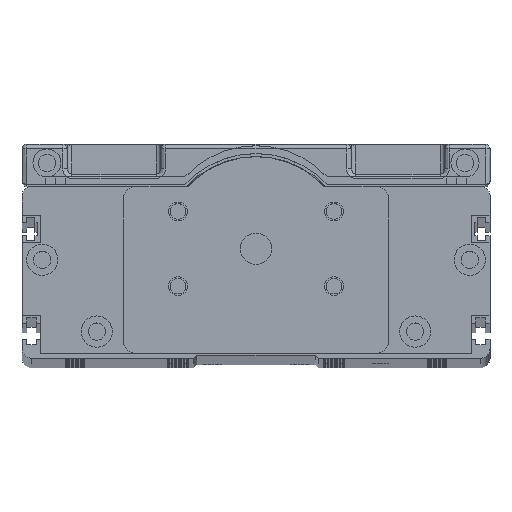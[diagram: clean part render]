
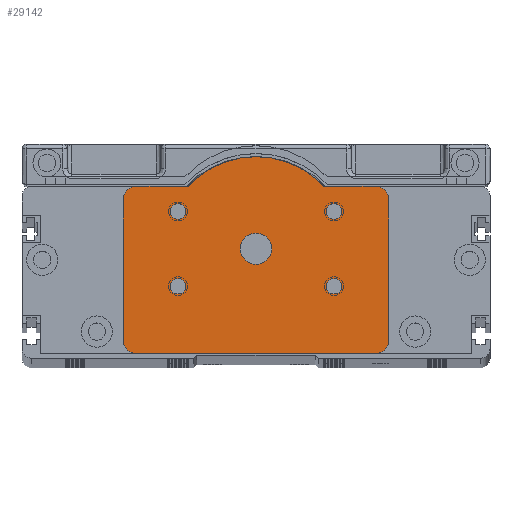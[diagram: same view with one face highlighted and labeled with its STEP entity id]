
A CAD part, top view. The second image highlights one B-rep face of the part: STEP entity #29142.
In plain terms, the highlighted planar face has unit normal (0, 0, 1).
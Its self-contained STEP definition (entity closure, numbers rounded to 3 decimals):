
#27784=CARTESIAN_POINT('',(38.5,49.5,29.));
#27785=DIRECTION('',(0.,0.,1.));
#27786=DIRECTION('',(1.,0.,0.));
#27787=AXIS2_PLACEMENT_3D('',#27784,#27785,#27786);
#27793=CARTESIAN_POINT('',(38.5,4.,29.));
#27794=DIRECTION('',(0.,0.,1.));
#27795=DIRECTION('',(0.,-1.,0.));
#27796=AXIS2_PLACEMENT_3D('',#27793,#27794,#27795);
#27945=CARTESIAN_POINT('',(-38.5,49.5,29.));
#27946=DIRECTION('',(0.,0.,1.));
#27947=DIRECTION('',(0.,1.,0.));
#27948=AXIS2_PLACEMENT_3D('',#27945,#27946,#27947);
#27959=DIRECTION('',(0.,1.,0.));
#27960=VECTOR('',#27959,45.5);
#27961=CARTESIAN_POINT('',(42.5,4.,29.));
#27962=LINE('',#27961,#27960);
#27963=DIRECTION('',(1.,0.,0.));
#27964=VECTOR('',#27963,77.);
#27965=CARTESIAN_POINT('',(-38.5,0.,29.));
#27966=LINE('',#27965,#27964);
#27967=DIRECTION('',(0.,1.,0.));
#27968=VECTOR('',#27967,45.5);
#27969=CARTESIAN_POINT('',(-42.5,4.,29.));
#27970=LINE('',#27969,#27968);
#27971=DIRECTION('',(-1.,0.,0.));
#27972=VECTOR('',#27971,16.815);
#27973=CARTESIAN_POINT('',(-21.685,53.5,29.));
#27974=LINE('',#27973,#27972);
#27975=CARTESIAN_POINT('',(0.,33.5,29.));
#27976=DIRECTION('',(0.,0.,1.));
#27977=DIRECTION('',(0.735,0.678,0.));
#27978=AXIS2_PLACEMENT_3D('',#27975,#27976,#27977);
#27980=DIRECTION('',(-1.,0.,0.));
#27981=VECTOR('',#27980,16.815);
#27982=CARTESIAN_POINT('',(38.5,53.5,29.));
#27983=LINE('',#27982,#27981);
#27984=CARTESIAN_POINT('',(0.,33.5,29.));
#27985=DIRECTION('',(0.,0.,1.));
#27986=DIRECTION('',(1.,0.,0.));
#27987=AXIS2_PLACEMENT_3D('',#27984,#27985,#27986);
#27989=CARTESIAN_POINT('',(0.,33.5,29.));
#27990=DIRECTION('',(0.,0.,1.));
#27991=DIRECTION('',(-1.,0.,0.));
#27992=AXIS2_PLACEMENT_3D('',#27989,#27990,#27991);
#27994=CARTESIAN_POINT('',(25.,45.5,29.));
#27995=DIRECTION('',(0.,0.,-1.));
#27996=DIRECTION('',(-1.,0.,0.));
#27997=AXIS2_PLACEMENT_3D('',#27994,#27995,#27996);
#27999=CARTESIAN_POINT('',(25.,45.5,29.));
#28000=DIRECTION('',(0.,0.,-1.));
#28001=DIRECTION('',(1.,0.,0.));
#28002=AXIS2_PLACEMENT_3D('',#27999,#28000,#28001);
#28004=CARTESIAN_POINT('',(25.,21.5,29.));
#28005=DIRECTION('',(0.,0.,1.));
#28006=DIRECTION('',(-1.,0.,0.));
#28007=AXIS2_PLACEMENT_3D('',#28004,#28005,#28006);
#28009=CARTESIAN_POINT('',(25.,21.5,29.));
#28010=DIRECTION('',(0.,0.,1.));
#28011=DIRECTION('',(1.,0.,0.));
#28012=AXIS2_PLACEMENT_3D('',#28009,#28010,#28011);
#28014=CARTESIAN_POINT('',(-25.,45.5,29.));
#28015=DIRECTION('',(0.,0.,1.));
#28016=DIRECTION('',(1.,0.,0.));
#28017=AXIS2_PLACEMENT_3D('',#28014,#28015,#28016);
#28019=CARTESIAN_POINT('',(-25.,45.5,29.));
#28020=DIRECTION('',(0.,0.,1.));
#28021=DIRECTION('',(-1.,0.,0.));
#28022=AXIS2_PLACEMENT_3D('',#28019,#28020,#28021);
#28024=CARTESIAN_POINT('',(-25.,21.5,29.));
#28025=DIRECTION('',(0.,0.,-1.));
#28026=DIRECTION('',(1.,0.,0.));
#28027=AXIS2_PLACEMENT_3D('',#28024,#28025,#28026);
#28029=CARTESIAN_POINT('',(-25.,21.5,29.));
#28030=DIRECTION('',(0.,0.,-1.));
#28031=DIRECTION('',(-1.,0.,0.));
#28032=AXIS2_PLACEMENT_3D('',#28029,#28030,#28031);
#28047=CARTESIAN_POINT('',(-38.5,4.,29.));
#28048=DIRECTION('',(0.,0.,1.));
#28049=DIRECTION('',(-1.,0.,0.));
#28050=AXIS2_PLACEMENT_3D('',#28047,#28048,#28049);
#28276=CARTESIAN_POINT('',(21.685,53.5,29.));
#28277=CARTESIAN_POINT('',(-21.685,53.5,29.));
#28278=VERTEX_POINT('',#28276);
#28279=VERTEX_POINT('',#28277);
#28324=CARTESIAN_POINT('',(38.5,53.5,29.));
#28326=VERTEX_POINT('',#28324);
#28328=CARTESIAN_POINT('',(42.5,49.5,29.));
#28330=VERTEX_POINT('',#28328);
#28333=CARTESIAN_POINT('',(38.5,0.,29.));
#28335=VERTEX_POINT('',#28333);
#28336=CARTESIAN_POINT('',(42.5,4.,29.));
#28337=VERTEX_POINT('',#28336);
#28341=CARTESIAN_POINT('',(-38.5,53.5,29.));
#28343=VERTEX_POINT('',#28341);
#28344=CARTESIAN_POINT('',(-42.5,49.5,29.));
#28345=VERTEX_POINT('',#28344);
#28348=CARTESIAN_POINT('',(-38.5,0.,29.));
#28350=VERTEX_POINT('',#28348);
#28352=CARTESIAN_POINT('',(-42.5,4.,29.));
#28354=VERTEX_POINT('',#28352);
#28364=CARTESIAN_POINT('',(22.5,45.5,29.));
#28365=CARTESIAN_POINT('',(27.5,45.5,29.));
#28366=VERTEX_POINT('',#28364);
#28367=VERTEX_POINT('',#28365);
#28372=CARTESIAN_POINT('',(22.5,21.5,29.));
#28373=CARTESIAN_POINT('',(27.5,21.5,29.));
#28374=VERTEX_POINT('',#28372);
#28375=VERTEX_POINT('',#28373);
#28380=CARTESIAN_POINT('',(-22.5,45.5,29.));
#28381=CARTESIAN_POINT('',(-27.5,45.5,29.));
#28382=VERTEX_POINT('',#28380);
#28383=VERTEX_POINT('',#28381);
#28388=CARTESIAN_POINT('',(-22.5,21.5,29.));
#28389=CARTESIAN_POINT('',(-27.5,21.5,29.));
#28390=VERTEX_POINT('',#28388);
#28391=VERTEX_POINT('',#28389);
#28512=CARTESIAN_POINT('',(5.,33.5,29.));
#28513=CARTESIAN_POINT('',(-5.,33.5,29.));
#28514=VERTEX_POINT('',#28512);
#28515=VERTEX_POINT('',#28513);
#29092=CARTESIAN_POINT('',(0.,0.,29.));
#29093=DIRECTION('',(0.,0.,1.));
#29094=DIRECTION('',(1.,0.,0.));
#29095=AXIS2_PLACEMENT_3D('',#29092,#29093,#29094);
#29096=PLANE('',#29095);
#29097=ORIENTED_EDGE('',*,*,#28832,.F.);
#29098=ORIENTED_EDGE('',*,*,#28846,.F.);
#29099=ORIENTED_EDGE('',*,*,#28858,.F.);
#29100=ORIENTED_EDGE('',*,*,#28876,.F.);
#29102=ORIENTED_EDGE('',*,*,#29101,.F.);
#29104=ORIENTED_EDGE('',*,*,#29103,.T.);
#29105=ORIENTED_EDGE('',*,*,#29084,.F.);
#29106=ORIENTED_EDGE('',*,*,#28818,.F.);
#29108=ORIENTED_EDGE('',*,*,#29107,.F.);
#29109=ORIENTED_EDGE('',*,*,#28786,.F.);
#29110=EDGE_LOOP('',(#29097,#29098,#29099,#29100,#29102,#29104,#29105,#29106,
#29108,#29109));
#29111=FACE_OUTER_BOUND('',#29110,.F.);
#29113=ORIENTED_EDGE('',*,*,#29112,.T.);
#29115=ORIENTED_EDGE('',*,*,#29114,.T.);
#29116=EDGE_LOOP('',(#29113,#29115));
#29117=FACE_BOUND('',#29116,.F.);
#29119=ORIENTED_EDGE('',*,*,#29118,.F.);
#29121=ORIENTED_EDGE('',*,*,#29120,.F.);
#29122=EDGE_LOOP('',(#29119,#29121));
#29123=FACE_BOUND('',#29122,.F.);
#29125=ORIENTED_EDGE('',*,*,#29124,.T.);
#29127=ORIENTED_EDGE('',*,*,#29126,.T.);
#29128=EDGE_LOOP('',(#29125,#29127));
#29129=FACE_BOUND('',#29128,.F.);
#29131=ORIENTED_EDGE('',*,*,#29130,.T.);
#29133=ORIENTED_EDGE('',*,*,#29132,.T.);
#29134=EDGE_LOOP('',(#29131,#29133));
#29135=FACE_BOUND('',#29134,.F.);
#29137=ORIENTED_EDGE('',*,*,#29136,.F.);
#29139=ORIENTED_EDGE('',*,*,#29138,.F.);
#29140=EDGE_LOOP('',(#29137,#29139));
#29141=FACE_BOUND('',#29140,.F.);
#29142=ADVANCED_FACE('',(#29111,#29117,#29123,#29129,#29135,#29141),#29096,.T.);
#27788=CIRCLE('',#27787,4.);
#27797=CIRCLE('',#27796,4.);
#27949=CIRCLE('',#27948,4.);
#27979=CIRCLE('',#27978,29.5);
#27988=CIRCLE('',#27987,5.);
#27993=CIRCLE('',#27992,5.);
#27998=CIRCLE('',#27997,2.5);
#28003=CIRCLE('',#28002,2.5);
#28008=CIRCLE('',#28007,2.5);
#28013=CIRCLE('',#28012,2.5);
#28018=CIRCLE('',#28017,2.5);
#28023=CIRCLE('',#28022,2.5);
#28028=CIRCLE('',#28027,2.5);
#28033=CIRCLE('',#28032,2.5);
#28051=CIRCLE('',#28050,4.);
#28786=EDGE_CURVE('',#28326,#28278,#27983,.T.);
#28818=EDGE_CURVE('',#28279,#28343,#27974,.T.);
#28832=EDGE_CURVE('',#28330,#28326,#27788,.T.);
#28846=EDGE_CURVE('',#28337,#28330,#27962,.T.);
#28858=EDGE_CURVE('',#28335,#28337,#27797,.T.);
#28876=EDGE_CURVE('',#28350,#28335,#27966,.T.);
#29084=EDGE_CURVE('',#28343,#28345,#27949,.T.);
#29101=EDGE_CURVE('',#28354,#28350,#28051,.T.);
#29103=EDGE_CURVE('',#28354,#28345,#27970,.T.);
#29107=EDGE_CURVE('',#28278,#28279,#27979,.T.);
#29112=EDGE_CURVE('',#28514,#28515,#27988,.T.);
#29114=EDGE_CURVE('',#28515,#28514,#27993,.T.);
#29118=EDGE_CURVE('',#28366,#28367,#27998,.T.);
#29120=EDGE_CURVE('',#28367,#28366,#28003,.T.);
#29124=EDGE_CURVE('',#28374,#28375,#28008,.T.);
#29126=EDGE_CURVE('',#28375,#28374,#28013,.T.);
#29130=EDGE_CURVE('',#28382,#28383,#28018,.T.);
#29132=EDGE_CURVE('',#28383,#28382,#28023,.T.);
#29136=EDGE_CURVE('',#28390,#28391,#28028,.T.);
#29138=EDGE_CURVE('',#28391,#28390,#28033,.T.);
